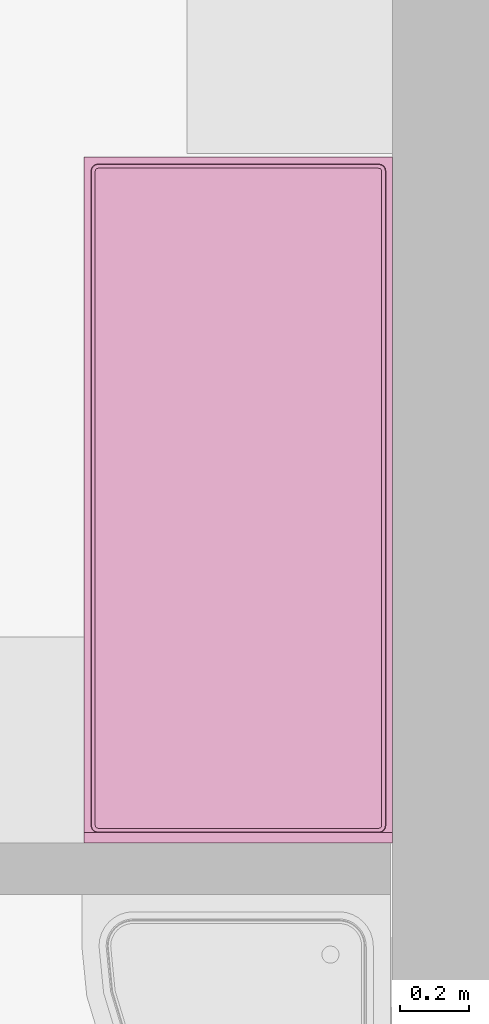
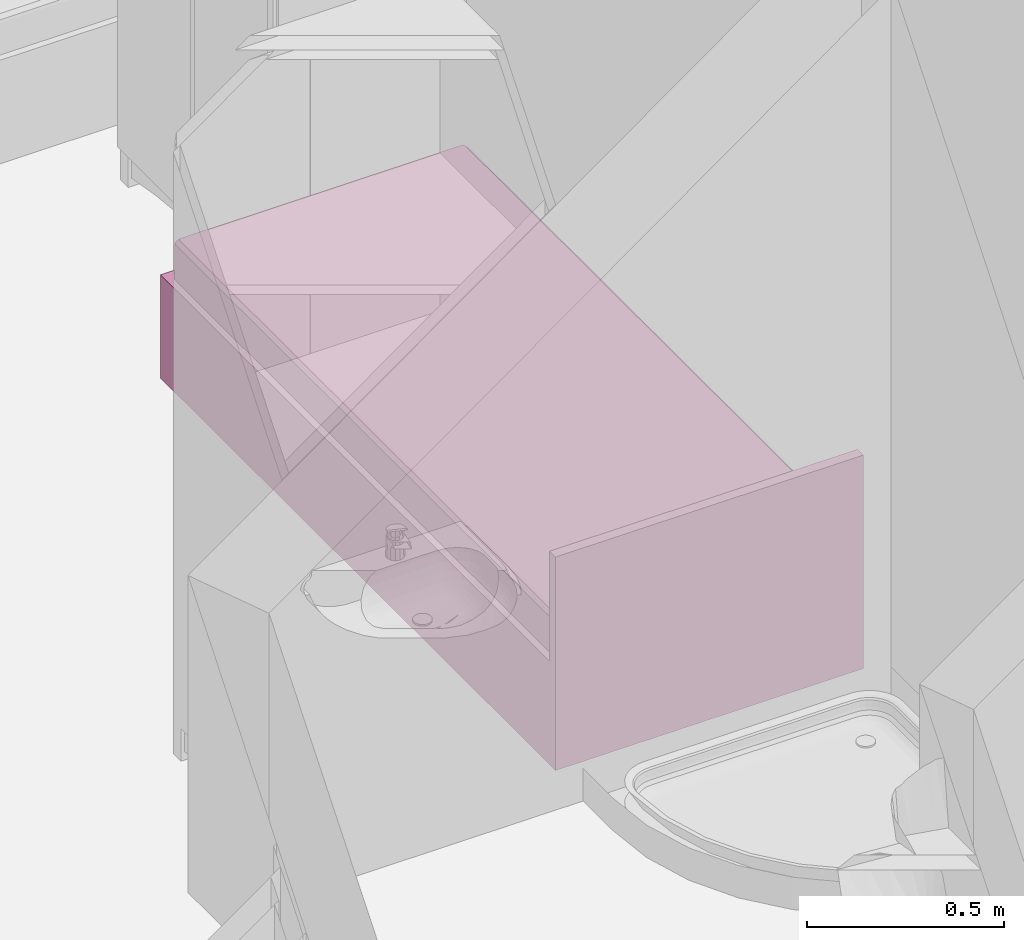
# One storey, part 114 of 172: 1 furnishing.
"""IFC2X3 building model written with IfcOpenShell, lengths in millimetres."""

from ifc_helpers import new_model, entity, si_unit, converted_unit, money_unit, direction, frame, origin_with_axes, place, context, subcontext, project, spatial, faceted_brep, source, transform, mapped, material, material_list, type_object, element, save


model = new_model("IFC2X3")

# Units and contexts
model_context = context("Model", 3, precision=1e-05, world=origin_with_axes(), true_north=direction((0.0, 1.0)))
body_context = subcontext(model_context, "Body", "Model", "MODEL_VIEW")
ifc_project = project(units=[si_unit("LENGTHUNIT", "METRE", prefix="MILLI"), si_unit("AREAUNIT", "SQUARE_METRE"), si_unit("VOLUMEUNIT", "CUBIC_METRE"), converted_unit("PLANEANGLEUNIT", "DEGREE", entity("IfcPlaneAngleMeasure", 0.0174532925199), si_unit("PLANEANGLEUNIT", "RADIAN"), dimensions=[0, 0, 0, 0, 0, 0, 0]), si_unit("SOLIDANGLEUNIT", "STERADIAN"), money_unit("USD"), converted_unit("TIMEUNIT", "Year", entity("IfcTimeMeasure", 31556926.0), si_unit("TIMEUNIT", "SECOND"), dimensions=[0, 0, 0, 0, 0, 0, 0]), si_unit("MASSUNIT", "GRAM"), si_unit("THERMODYNAMICTEMPERATUREUNIT", "DEGREE_CELSIUS"), si_unit("LUMINOUSINTENSITYUNIT", "LUMEN")], contexts=[model_context])

# Site, building, storey
site_placement = place(None, origin_with_axes())
site = spatial("IfcSite", under=ifc_project, at=site_placement, Name="Site", CompositionType="ELEMENT")
building_placement = place(site_placement, origin_with_axes())
building = spatial("IfcBuilding", under=site, at=building_placement, Name="Building", CompositionType="ELEMENT")
storey_placement = place(building_placement, frame((0.0, 0.0, 3200.0), z_axis=(0.0, 0.0, 1.0), x_axis=(1.0, 0.0, 0.0)))
storey = spatial("IfcBuildingStorey", under=building, at=storey_placement, Name="3KORRUS", CompositionType="ELEMENT", Elevation=3200.0)

# Furnishing
ifc_material = material(Name="Background")
ifc_material_list = material_list([ifc_material])
furnishing_element_type = type_object("IfcFurnishingElementType", Name="Bed 19")
shared_shape = source(origin_with_axes(), body_context, "Body", "Brep", [
    faceted_brep([(-900.0, 1970.0, 0.0), (-900.0, 2000.0, 0.0), (0.0, 2000.0, 0.0), (0.0, 1970.0, 0.0), (-900.0, 1970.0, 660.0), (-900.0, 2000.0, 660.0), (0.0, 2000.0, 660.0), (0.0, 1970.0, 660.0)], [[[0, 1, 2, 3]], [[0, 4, 5, 1]], [[1, 5, 6, 2]], [[2, 6, 7, 3]], [[3, 7, 4, 0]], [[7, 6, 5, 4]]]),
    faceted_brep([(-900.0, 0.0, 0.0), (-900.0, 1970.0, 0.0), (0.0, 1970.0, 0.0), (0.0, 0.0, 0.0), (-900.0, 0.0, 320.0), (-900.0, 1970.0, 320.0), (0.0, 1970.0, 320.0), (0.0, 0.0, 320.0)], [[[0, 1, 2, 3]], [[0, 4, 5, 1]], [[1, 5, 6, 2]], [[2, 6, 7, 3]], [[3, 7, 4, 0]], [[7, 6, 5, 4]]]),
    faceted_brep([(-905.0, 10.0, 30.0), (-905.0, 695.0, 30.0), (-900.0, 695.0, 30.0), (-900.0, 10.0, 30.0), (-905.0, 10.0, 290.0), (-905.0, 695.0, 290.0), (-900.0, 695.0, 290.0), (-900.0, 10.0, 290.0)], [[[0, 1, 2, 3]], [[0, 4, 5, 1]], [[1, 5, 6, 2]], [[2, 6, 7, 3]], [[3, 7, 4, 0]], [[7, 6, 5, 4]]]),
    faceted_brep([(-935.0, 307.5, 150.0), (-935.0, 397.5, 150.0), (-905.0, 397.5, 150.0), (-905.0, 307.5, 150.0), (-935.0, 307.5, 170.0), (-935.0, 397.5, 170.0), (-905.0, 397.5, 170.0), (-905.0, 307.5, 170.0)], [[[0, 1, 2, 3]], [[0, 4, 5, 1]], [[1, 5, 6, 2]], [[2, 6, 7, 3]], [[3, 7, 4, 0]], [[7, 6, 5, 4]]]),
    faceted_brep([(-905.0, 705.0, 30.0), (-905.0, 1390.0, 30.0), (-900.0, 1390.0, 30.0), (-900.0, 705.0, 30.0), (-905.0, 705.0, 290.0), (-905.0, 1390.0, 290.0), (-900.0, 1390.0, 290.0), (-900.0, 705.0, 290.0)], [[[0, 1, 2, 3]], [[0, 4, 5, 1]], [[1, 5, 6, 2]], [[2, 6, 7, 3]], [[3, 7, 4, 0]], [[7, 6, 5, 4]]]),
    faceted_brep([(-935.0, 1002.5, 150.0), (-935.0, 1092.5, 150.0), (-905.0, 1092.5, 150.0), (-905.0, 1002.5, 150.0), (-935.0, 1002.5, 170.0), (-935.0, 1092.5, 170.0), (-905.0, 1092.5, 170.0), (-905.0, 1002.5, 170.0)], [[[0, 1, 2, 3]], [[0, 4, 5, 1]], [[1, 5, 6, 2]], [[2, 6, 7, 3]], [[3, 7, 4, 0]], [[7, 6, 5, 4]]]),
    faceted_brep([(-20.0, 40.0, 350.0), (-21.522, 32.346, 350.0), (-25.858, 25.858, 350.0), (-32.346, 21.522, 350.0), (-40.0, 20.0, 350.0), (-860.0, 20.0, 350.0), (-867.654, 21.522, 350.0), (-874.142, 25.858, 350.0), (-878.478, 32.346, 350.0), (-880.0, 40.0, 350.0), (-880.0, 1950.0, 350.0), (-878.478, 1957.654, 350.0), (-874.142, 1964.142, 350.0), (-867.654, 1968.478, 350.0), (-860.0, 1970.0, 350.0), (-40.0, 1970.0, 350.0), (-32.346, 1968.478, 350.0), (-25.858, 1964.142, 350.0), (-21.522, 1957.654, 350.0), (-20.0, 1950.0, 350.0), (-20.0, 40.0, 420.0), (-21.522, 32.346, 420.0), (-25.858, 25.858, 420.0), (-32.346, 21.522, 420.0), (-40.0, 20.0, 420.0), (-860.0, 20.0, 420.0), (-867.654, 21.522, 420.0), (-874.142, 25.858, 420.0), (-878.478, 32.346, 420.0), (-880.0, 40.0, 420.0), (-880.0, 1950.0, 420.0), (-878.478, 1957.654, 420.0), (-874.142, 1964.142, 420.0), (-867.654, 1968.478, 420.0), (-860.0, 1970.0, 420.0), (-40.0, 1970.0, 420.0), (-32.346, 1968.478, 420.0), (-25.858, 1964.142, 420.0), (-21.522, 1957.654, 420.0), (-20.0, 1950.0, 420.0), (-21.522, 40.15, 427.654), (-22.956, 32.94, 427.654), (-26.955, 26.955, 427.654), (-32.94, 22.956, 427.654), (-40.15, 21.522, 427.654), (-859.85, 21.522, 427.654), (-867.06, 22.956, 427.654), (-873.045, 26.955, 427.654), (-877.044, 32.94, 427.654), (-878.478, 40.15, 427.654), (-878.478, 1949.85, 427.654), (-877.044, 1957.06, 427.654), (-873.045, 1963.045, 427.654), (-867.06, 1967.044, 427.654), (-859.85, 1968.478, 427.654), (-40.15, 1968.478, 427.654), (-32.94, 1967.044, 427.654), (-26.955, 1963.045, 427.654), (-22.956, 1957.06, 427.654), (-21.522, 1949.85, 427.654), (-32.346, 41.216, 438.478), (-33.152, 37.164, 438.478), (-34.759, 34.759, 438.478), (-37.164, 33.152, 438.478), (-41.216, 32.346, 438.478), (-858.784, 32.346, 438.478), (-862.836, 33.152, 438.478), (-865.241, 34.759, 438.478), (-866.848, 37.164, 438.478), (-867.654, 41.216, 438.478), (-867.654, 1948.784, 438.478), (-866.848, 1952.836, 438.478), (-865.241, 1955.241, 438.478), (-862.836, 1956.848, 438.478), (-858.784, 1957.654, 438.478), (-41.216, 1957.654, 438.478), (-37.164, 1956.848, 438.478), (-34.759, 1955.241, 438.478), (-33.152, 1952.836, 438.478), (-32.346, 1948.784, 438.478), (-40.0, 41.97, 440.0), (-40.327, 40.327, 440.0), (-40.0, 40.0, 439.924), (-41.97, 40.0, 440.0), (-858.03, 40.0, 440.0), (-859.673, 40.327, 440.0), (-860.0, 40.0, 439.924), (-860.0, 41.97, 440.0), (-860.0, 1948.03, 440.0), (-859.673, 1949.673, 440.0), (-860.0, 1950.0, 439.924), (-858.03, 1950.0, 440.0), (-41.97, 1950.0, 440.0), (-40.327, 1949.673, 440.0), (-40.0, 1950.0, 439.924), (-40.0, 1948.03, 440.0)], [[[0, 1, 2, 3, 4, 5, 6, 7, 8, 9, 10, 11, 12, 13, 14, 15, 16, 17, 18, 19]], [[0, 20, 21, 1]], [[1, 21, 22, 2]], [[2, 22, 23, 3]], [[3, 23, 24, 4]], [[4, 24, 25, 5]], [[5, 25, 26, 6]], [[6, 26, 27, 7]], [[7, 27, 28, 8]], [[8, 28, 29, 9]], [[9, 29, 30, 10]], [[10, 30, 31, 11]], [[11, 31, 32, 12]], [[12, 32, 33, 13]], [[13, 33, 34, 14]], [[14, 34, 35, 15]], [[15, 35, 36, 16]], [[16, 36, 37, 17]], [[17, 37, 38, 18]], [[18, 38, 39, 19]], [[19, 39, 20, 0]], [[20, 40, 41, 21]], [[21, 41, 42, 22]], [[22, 42, 43, 23]], [[23, 43, 44, 24]], [[24, 44, 45, 25]], [[25, 45, 46, 26]], [[26, 46, 47, 27]], [[27, 47, 48, 28]], [[28, 48, 49, 29]], [[29, 49, 50, 30]], [[30, 50, 51, 31]], [[31, 51, 52, 32]], [[32, 52, 53, 33]], [[33, 53, 54, 34]], [[34, 54, 55, 35]], [[35, 55, 56, 36]], [[36, 56, 57, 37]], [[37, 57, 58, 38]], [[38, 58, 59, 39]], [[39, 59, 40, 20]], [[40, 60, 61, 41]], [[41, 61, 62, 42]], [[42, 62, 63, 43]], [[43, 63, 64, 44]], [[44, 64, 65, 45]], [[45, 65, 66, 46]], [[46, 66, 67, 47]], [[47, 67, 68, 48]], [[48, 68, 69, 49]], [[49, 69, 70, 50]], [[50, 70, 71, 51]], [[51, 71, 72, 52]], [[52, 72, 73, 53]], [[53, 73, 74, 54]], [[54, 74, 75, 55]], [[55, 75, 76, 56]], [[56, 76, 77, 57]], [[57, 77, 78, 58]], [[58, 78, 79, 59]], [[59, 79, 60, 40]], [[60, 80, 81, 82, 61]], [[61, 82, 62]], [[62, 82, 63]], [[63, 82, 81, 83, 64]], [[64, 83, 84, 65]], [[65, 84, 85, 86, 66]], [[66, 86, 67]], [[67, 86, 68]], [[68, 86, 85, 87, 69]], [[69, 87, 88, 70]], [[70, 88, 89, 90, 71]], [[71, 90, 72]], [[72, 90, 73]], [[73, 90, 89, 91, 74]], [[74, 91, 92, 75]], [[75, 92, 93, 94, 76]], [[76, 94, 77]], [[77, 94, 78]], [[78, 94, 93, 95, 79]], [[79, 95, 80, 60]], [[95, 93, 92, 91, 89, 88, 87, 85, 84, 83, 81, 80]]]),
    faceted_brep([(-20.0, 40.0, 350.0), (-20.0, 1950.0, 350.0), (-21.522, 1957.654, 350.0), (-25.858, 1964.142, 350.0), (-32.346, 1968.478, 350.0), (-40.0, 1970.0, 350.0), (-860.0, 1970.0, 350.0), (-867.654, 1968.478, 350.0), (-874.142, 1964.142, 350.0), (-878.478, 1957.654, 350.0), (-880.0, 1950.0, 350.0), (-880.0, 40.0, 350.0), (-878.478, 32.346, 350.0), (-874.142, 25.858, 350.0), (-867.654, 21.522, 350.0), (-860.0, 20.0, 350.0), (-40.0, 20.0, 350.0), (-32.346, 21.522, 350.0), (-25.858, 25.858, 350.0), (-21.522, 32.346, 350.0), (-20.0, 40.0, 320.0), (-20.0, 1950.0, 320.0), (-21.522, 1957.654, 320.0), (-25.858, 1964.142, 320.0), (-32.346, 1968.478, 320.0), (-40.0, 1970.0, 320.0), (-860.0, 1970.0, 320.0), (-867.654, 1968.478, 320.0), (-874.142, 1964.142, 320.0), (-878.478, 1957.654, 320.0), (-880.0, 1950.0, 320.0), (-880.0, 40.0, 320.0), (-878.478, 32.346, 320.0), (-874.142, 25.858, 320.0), (-867.654, 21.522, 320.0), (-860.0, 20.0, 320.0), (-40.0, 20.0, 320.0), (-32.346, 21.522, 320.0), (-25.858, 25.858, 320.0), (-21.522, 32.346, 320.0)], [[[0, 1, 2, 3, 4, 5, 6, 7, 8, 9, 10, 11, 12, 13, 14, 15, 16, 17, 18, 19]], [[1, 0, 20, 21]], [[2, 1, 21, 22]], [[3, 2, 22, 23]], [[4, 3, 23, 24]], [[5, 4, 24, 25]], [[6, 5, 25, 26]], [[7, 6, 26, 27]], [[8, 7, 27, 28]], [[9, 8, 28, 29]], [[10, 9, 29, 30]], [[11, 10, 30, 31]], [[12, 11, 31, 32]], [[13, 12, 32, 33]], [[14, 13, 33, 34]], [[15, 14, 34, 35]], [[16, 15, 35, 36]], [[17, 16, 36, 37]], [[18, 17, 37, 38]], [[19, 18, 38, 39]], [[0, 19, 39, 20]], [[20, 39, 38, 37, 36, 35, 34, 33, 32, 31, 30, 29, 28, 27, 26, 25, 24, 23, 22, 21]]]),
])
furnishing_placement = place(storey_placement, frame((-31190.2967033, -7216.37850445, 0.0), z_axis=(0.0, 0.0, 1.0), x_axis=(-1.0, 0.0, 0.0)))
element("IfcFurnishingElement", 1, at=furnishing_placement, inside=storey, type_object=furnishing_element_type, material=ifc_material_list, Name="FU - 013", context=body_context, shape_type="MappedRepresentation", body=[
    mapped(shared_shape, transform((0.0, 0.0, 0.0))),
])

save(model, "model.ifc")
